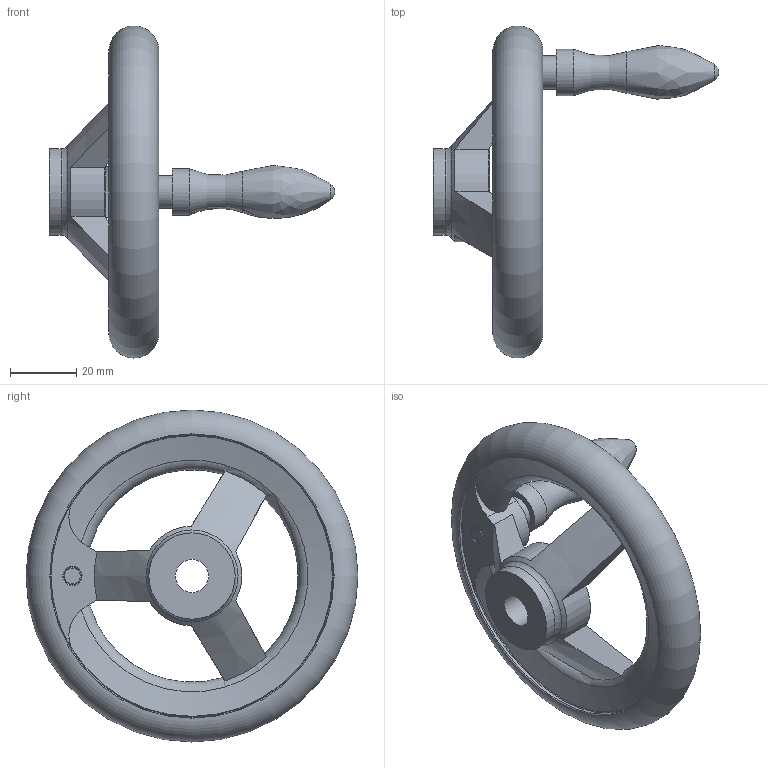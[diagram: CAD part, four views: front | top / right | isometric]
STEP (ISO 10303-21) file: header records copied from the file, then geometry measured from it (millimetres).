
FILE_DESCRIPTION( ( 'STEP AP203' ), '1' );
FILE_NAME( 'C:/Temp/Ganter_Step_05_03_2020/data/1_3/din_950/din_950_b/din_950_b_d/Handwheel DIN 950-GG-100-B10-D.stp', '2020-03-05T10:29:35', ( 'License CC BY-ND 4.0' ), ( 'CADENAS' ), ' ', 'PARTsolutions', ' ' );
FILE_SCHEMA( ( 'CONFIG_CONTROL_DESIGN' ) );
Length unit declared in the file: millimetre
Products named in the file (1): _Handwheel DIN 950-GG-100-B10-D
Bounding box: 86 x 100 x 100 mm (x, y, z)
Volume: 71396.1 mm3; surface area: 21581.7 mm2
Topology: 1 solids, 1 shells, 46 faces, 125 edges, 79 vertices
Faces by surface type: cylinder 15, plane 12, torus 11, cone 6, bspline 1, sphere 1
Full cylindrical faces by diameter (mm): 10 x2, 14 x1, 26 x2, 85 x2
Entity records: 1665 total; most frequent: CARTESIAN_POINT 600, DIRECTION 202, ORIENTED_EDGE 196, EDGE_CURVE 98, AXIS2_PLACEMENT_3D 95, VERTEX_POINT 75, EDGE_LOOP 73, FACE_OUTER_BOUND 62
